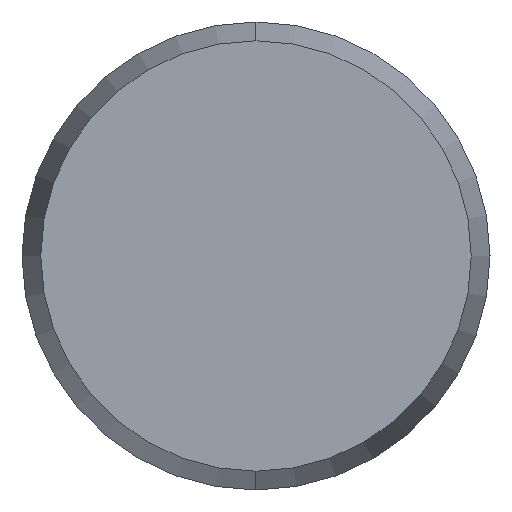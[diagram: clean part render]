
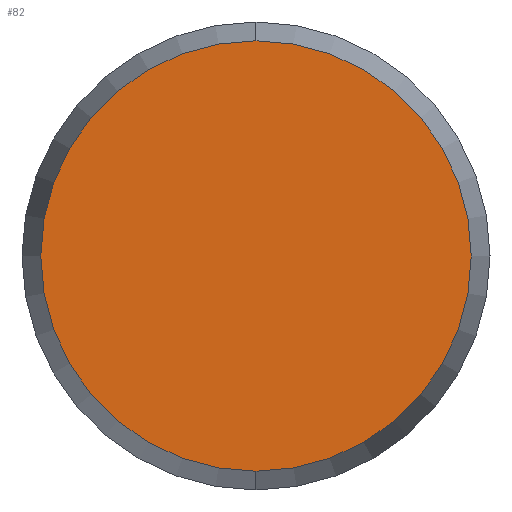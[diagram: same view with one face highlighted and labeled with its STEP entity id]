
A CAD part, left-side view. The second image highlights one B-rep face of the part: STEP entity #82.
In plain terms, the highlighted planar face has unit normal (-1, 0, 0).
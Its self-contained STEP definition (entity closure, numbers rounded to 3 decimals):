
#1 = FACE_OUTER_BOUND ( 'NONE', #83, .T. ) ;
#2 = DIRECTION ( 'NONE',  ( 0., 0., -1. ) ) ;
#3 = DIRECTION ( 'NONE',  ( 1., 0., 0. ) ) ;
#4 = CARTESIAN_POINT ( 'NONE',  ( -20., 0., 0. ) ) ;
#5 = AXIS2_PLACEMENT_3D ( 'NONE', #4, #3, #2 ) ;
#6 = CIRCLE ( 'NONE', #5, 4.598 ) ;
#24 = CARTESIAN_POINT ( 'NONE',  ( -20., 0., -4.598 ) ) ;
#25 = DIRECTION ( 'NONE',  ( 0., 0., -1. ) ) ;
#26 = DIRECTION ( 'NONE',  ( 1., 0., 0. ) ) ;
#27 = CARTESIAN_POINT ( 'NONE',  ( -20., 0., 0. ) ) ;
#28 = AXIS2_PLACEMENT_3D ( 'NONE', #27, #26, #25 ) ;
#29 = CIRCLE ( 'NONE', #28, 4.598 ) ;
#43 = ORIENTED_EDGE ( 'NONE', *, *, #48, .F. ) ;
#44 = ORIENTED_EDGE ( 'NONE', *, *, #79, .F. ) ;
#46 = VERTEX_POINT ( 'NONE', #59 ) ;
#48 = EDGE_CURVE ( 'NONE', #46, #49, #29, .T. ) ;
#49 = VERTEX_POINT ( 'NONE', #24 ) ;
#59 = CARTESIAN_POINT ( 'NONE',  ( -20., 0., 4.598 ) ) ;
#79 = EDGE_CURVE ( 'NONE', #49, #46, #6, .T. ) ;
#82 = ADVANCED_FACE ( 'NONE', ( #1 ), #248, .F. ) ;
#83 = EDGE_LOOP ( 'NONE', ( #43, #44 ) ) ;
#248 = PLANE ( 'NONE',  #270 ) ;
#264 = DIRECTION ( 'NONE',  ( 1., 0., 0. ) ) ;
#265 = CARTESIAN_POINT ( 'NONE',  ( -20., 0., 0. ) ) ;
#269 = DIRECTION ( 'NONE',  ( 0., 0., -1. ) ) ;
#270 = AXIS2_PLACEMENT_3D ( 'NONE', #265, #264, #269 ) ;
